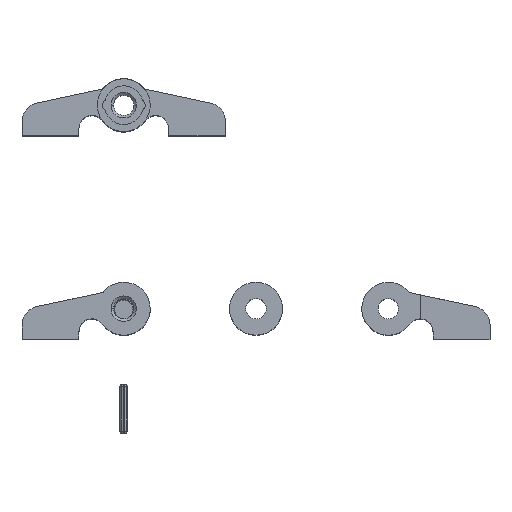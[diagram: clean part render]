
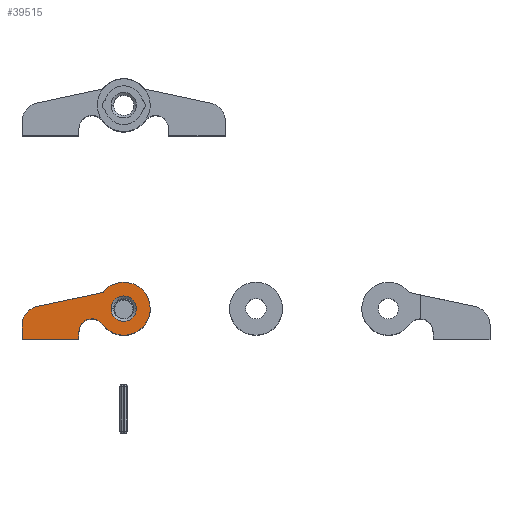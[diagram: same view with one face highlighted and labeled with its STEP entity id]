
A CAD part, top view. The second image highlights one B-rep face of the part: STEP entity #39515.
In plain terms, the highlighted planar face has unit normal (0, 0, 1).
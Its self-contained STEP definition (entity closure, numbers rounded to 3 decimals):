
#208 = CARTESIAN_POINT ( 'NONE',  ( 0., 0., 62. ) ) ;
#848 = ORIENTED_EDGE ( 'NONE', *, *, #37265, .T. ) ;
#854 = AXIS2_PLACEMENT_3D ( 'NONE', #7514, #30060, #10742 ) ;
#1048 = CARTESIAN_POINT ( 'NONE',  ( -22., 0., 62. ) ) ;
#1226 = AXIS2_PLACEMENT_3D ( 'NONE', #16544, #39167, #19827 ) ;
#1399 = ORIENTED_EDGE ( 'NONE', *, *, #21401, .T. ) ;
#1663 = AXIS2_PLACEMENT_3D ( 'NONE', #31971, #12602, #35207 ) ;
#2836 = EDGE_LOOP ( 'NONE', ( #30192, #34670, #4852, #39360, #23512, #26051, #19878, #848 ) ) ;
#4265 = DIRECTION ( 'NONE',  ( 0., 1., 0. ) ) ;
#4523 = LINE ( 'NONE', #16899, #37753 ) ;
#4852 = ORIENTED_EDGE ( 'NONE', *, *, #38455, .T. ) ;
#5096 = FACE_BOUND ( 'NONE', #6824, .T. ) ;
#5118 = VERTEX_POINT ( 'NONE', #6902 ) ;
#5297 = CARTESIAN_POINT ( 'NONE',  ( -10.033, 8.267, 62. ) ) ;
#6601 = DIRECTION ( 'NONE',  ( 1., 0., 0. ) ) ;
#6824 = EDGE_LOOP ( 'NONE', ( #8693, #1399 ) ) ;
#6902 = CARTESIAN_POINT ( 'NONE',  ( -22., -11.336, 62. ) ) ;
#7055 = CARTESIAN_POINT ( 'NONE',  ( -50., -8., 62. ) ) ;
#7514 = CARTESIAN_POINT ( 'NONE',  ( 0., 0., 62. ) ) ;
#7606 = DIRECTION ( 'NONE',  ( 0.978, 0.211, 0. ) ) ;
#7723 = EDGE_CURVE ( 'NONE', #38907, #31910, #26331, .T. ) ;
#7756 = CARTESIAN_POINT ( 'NONE',  ( -10.594, 7.925, 62. ) ) ;
#8010 = AXIS2_PLACEMENT_3D ( 'NONE', #38094, #18734, #41280 ) ;
#8425 = DIRECTION ( 'NONE',  ( 0., 0., -1. ) ) ;
#8693 = ORIENTED_EDGE ( 'NONE', *, *, #35075, .T. ) ;
#9691 = DIRECTION ( 'NONE',  ( 0., 0., 1. ) ) ;
#10605 = CARTESIAN_POINT ( 'NONE',  ( 0., 0., 62. ) ) ;
#10742 = DIRECTION ( 'NONE',  ( 1., 0., 0. ) ) ;
#12250 = CARTESIAN_POINT ( 'NONE',  ( -6.25, 0., 62. ) ) ;
#12602 = DIRECTION ( 'NONE',  ( 0., 0., -1. ) ) ;
#12623 = CIRCLE ( 'NONE', #8010, 1. ) ;
#12947 = CARTESIAN_POINT ( 'NONE',  ( -22., -15., 62. ) ) ;
#13746 = DIRECTION ( 'NONE',  ( 1., 0., 0. ) ) ;
#14795 = CARTESIAN_POINT ( 'NONE',  ( 6.25, 0., 62. ) ) ;
#16544 = CARTESIAN_POINT ( 'NONE',  ( -40.793, -8., 62. ) ) ;
#16659 = EDGE_CURVE ( 'NONE', #5118, #35857, #19767, .T. ) ;
#16689 = VERTEX_POINT ( 'NONE', #14795 ) ;
#16899 = CARTESIAN_POINT ( 'NONE',  ( -50., 0., 62. ) ) ;
#17463 = VERTEX_POINT ( 'NONE', #12250 ) ;
#18734 = DIRECTION ( 'NONE',  ( 0., 0., -1. ) ) ;
#19279 = EDGE_CURVE ( 'NONE', #33147, #21114, #12623, .T. ) ;
#19767 = CIRCLE ( 'NONE', #38182, 6.336 ) ;
#19827 = DIRECTION ( 'NONE',  ( 1., 0., 0. ) ) ;
#19878 = ORIENTED_EDGE ( 'NONE', *, *, #23367, .F. ) ;
#21114 = VERTEX_POINT ( 'NONE', #7756 ) ;
#21143 = VECTOR ( 'NONE', #31583, 1000. ) ;
#21377 = CARTESIAN_POINT ( 'NONE',  ( -42.733, 1., 62. ) ) ;
#21401 = EDGE_CURVE ( 'NONE', #17463, #16689, #31343, .T. ) ;
#21848 = CARTESIAN_POINT ( 'NONE',  ( 0., -15., 62. ) ) ;
#22878 = VECTOR ( 'NONE', #4265, 1000. ) ;
#23367 = EDGE_CURVE ( 'NONE', #40007, #38907, #4523, .T. ) ;
#23512 = ORIENTED_EDGE ( 'NONE', *, *, #35730, .F. ) ;
#25499 = AXIS2_PLACEMENT_3D ( 'NONE', #10605, #33144, #13746 ) ;
#25861 = PLANE ( 'NONE',  #26416 ) ;
#26051 = ORIENTED_EDGE ( 'NONE', *, *, #7723, .F. ) ;
#26331 = CIRCLE ( 'NONE', #1226, 9.207 ) ;
#26416 = AXIS2_PLACEMENT_3D ( 'NONE', #208, #9691, #6601 ) ;
#27713 = CARTESIAN_POINT ( 'NONE',  ( -15.664, -11.336, 62. ) ) ;
#27971 = CARTESIAN_POINT ( 'NONE',  ( -50., -15., 62. ) ) ;
#29721 = LINE ( 'NONE', #21848, #21143 ) ;
#30060 = DIRECTION ( 'NONE',  ( 0., 0., 1. ) ) ;
#30192 = ORIENTED_EDGE ( 'NONE', *, *, #33696, .T. ) ;
#30681 = VERTEX_POINT ( 'NONE', #12947 ) ;
#30765 = FACE_OUTER_BOUND ( 'NONE', #2836, .T. ) ;
#30979 = DIRECTION ( 'NONE',  ( 1., 0., 0. ) ) ;
#31132 = CARTESIAN_POINT ( 'NONE',  ( -10.532, -7.621, 62. ) ) ;
#31343 = CIRCLE ( 'NONE', #1663, 6.25 ) ;
#31360 = LINE ( 'NONE', #33520, #39872 ) ;
#31477 = LINE ( 'NONE', #1048, #22878 ) ;
#31583 = DIRECTION ( 'NONE',  ( 1., 0., 0. ) ) ;
#31910 = VERTEX_POINT ( 'NONE', #21377 ) ;
#31971 = CARTESIAN_POINT ( 'NONE',  ( 0., 0., 62. ) ) ;
#33144 = DIRECTION ( 'NONE',  ( 0., 0., -1. ) ) ;
#33147 = VERTEX_POINT ( 'NONE', #5297 ) ;
#33520 = CARTESIAN_POINT ( 'NONE',  ( -2.102, 9.755, 62. ) ) ;
#33696 = EDGE_CURVE ( 'NONE', #30681, #5118, #31477, .T. ) ;
#34670 = ORIENTED_EDGE ( 'NONE', *, *, #16659, .T. ) ;
#35075 = EDGE_CURVE ( 'NONE', #16689, #17463, #37943, .T. ) ;
#35207 = DIRECTION ( 'NONE',  ( 1., 0., 0. ) ) ;
#35730 = EDGE_CURVE ( 'NONE', #31910, #21114, #31360, .T. ) ;
#35857 = VERTEX_POINT ( 'NONE', #31132 ) ;
#37265 = EDGE_CURVE ( 'NONE', #40007, #30681, #29721, .T. ) ;
#37753 = VECTOR ( 'NONE', #39500, 1000. ) ;
#37943 = CIRCLE ( 'NONE', #25499, 6.25 ) ;
#38094 = CARTESIAN_POINT ( 'NONE',  ( -10.805, 8.903, 62. ) ) ;
#38182 = AXIS2_PLACEMENT_3D ( 'NONE', #27713, #8425, #30979 ) ;
#38455 = EDGE_CURVE ( 'NONE', #35857, #33147, #41209, .T. ) ;
#38907 = VERTEX_POINT ( 'NONE', #7055 ) ;
#39167 = DIRECTION ( 'NONE',  ( 0., 0., -1. ) ) ;
#39360 = ORIENTED_EDGE ( 'NONE', *, *, #19279, .T. ) ;
#39500 = DIRECTION ( 'NONE',  ( 0., 1., 0. ) ) ;
#39515 = ADVANCED_FACE ( 'NONE', ( #5096, #30765 ), #25861, .T. ) ;
#39872 = VECTOR ( 'NONE', #7606, 1000. ) ;
#40007 = VERTEX_POINT ( 'NONE', #27971 ) ;
#41209 = CIRCLE ( 'NONE', #854, 13. ) ;
#41280 = DIRECTION ( 'NONE',  ( 1., 0., 0. ) ) ;
